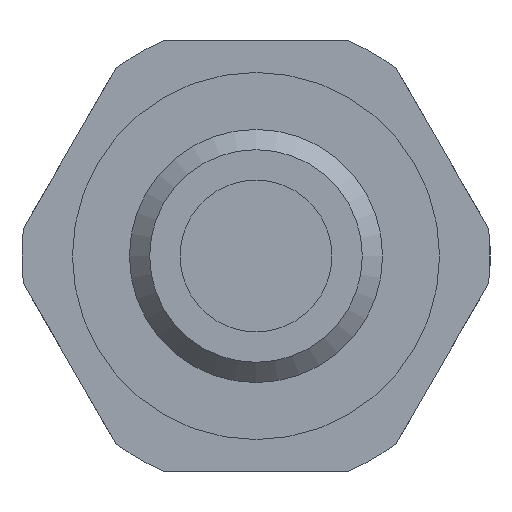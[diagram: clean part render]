
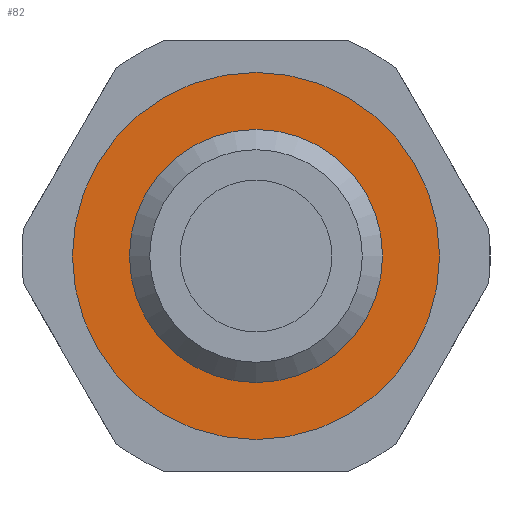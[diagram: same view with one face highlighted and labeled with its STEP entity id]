
A CAD part, front view. The second image highlights one B-rep face of the part: STEP entity #82.
In plain terms, the highlighted planar face has unit normal (0, -1, 0).
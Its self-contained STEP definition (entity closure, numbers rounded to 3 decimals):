
#82 = ADVANCED_FACE( '', ( #126, #127 ), #128, .F. );
#126 = FACE_BOUND( '', #202, .T. );
#127 = FACE_OUTER_BOUND( '', #203, .T. );
#128 = PLANE( '', #204 );
#202 = EDGE_LOOP( '', ( #299 ) );
#203 = EDGE_LOOP( '', ( #300 ) );
#204 = AXIS2_PLACEMENT_3D( '', #301, #302, #303 );
#299 = ORIENTED_EDGE( '', *, *, #488, .F. );
#300 = ORIENTED_EDGE( '', *, *, #489, .T. );
#301 = CARTESIAN_POINT( '', ( 7.25, 0., 0. ) );
#302 = DIRECTION( '', ( 0., 1., 0. ) );
#303 = DIRECTION( '', ( -1., 0., 0. ) );
#488 = EDGE_CURVE( '', #559, #559, #560, .T. );
#489 = EDGE_CURVE( '', #561, #561, #562, .T. );
#559 = VERTEX_POINT( '', #671 );
#560 = CIRCLE( '', #672, 5. );
#561 = VERTEX_POINT( '', #673 );
#562 = CIRCLE( '', #674, 7.25 );
#671 = CARTESIAN_POINT( '', ( 5., 0., 0. ) );
#672 = AXIS2_PLACEMENT_3D( '', #820, #821, #822 );
#673 = CARTESIAN_POINT( '', ( 7.25, 0., 0. ) );
#674 = AXIS2_PLACEMENT_3D( '', #823, #824, #825 );
#820 = CARTESIAN_POINT( '', ( 0., 0., 0. ) );
#821 = DIRECTION( '', ( 0., -1., 0. ) );
#822 = DIRECTION( '', ( 1., 0., 0. ) );
#823 = CARTESIAN_POINT( '', ( 0., 0., 0. ) );
#824 = DIRECTION( '', ( 0., -1., 0. ) );
#825 = DIRECTION( '', ( 1., 0., 0. ) );
